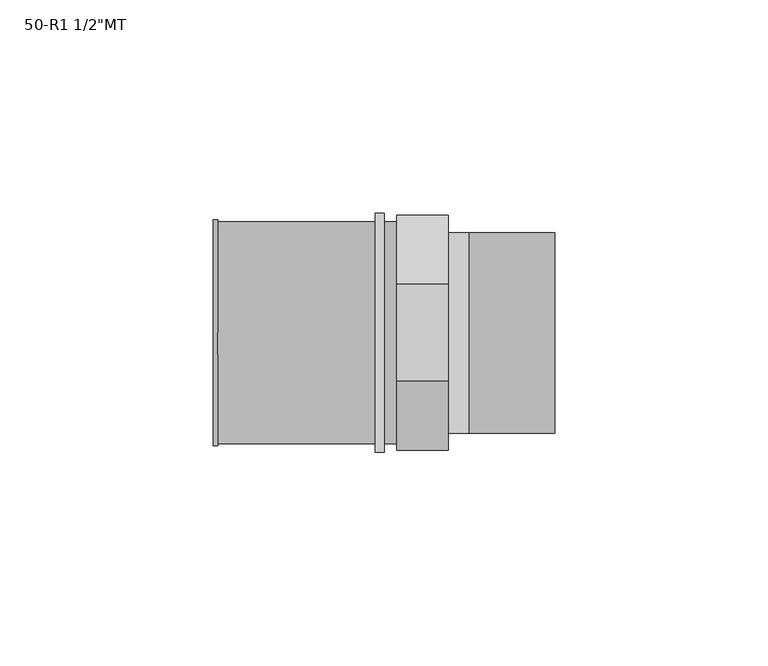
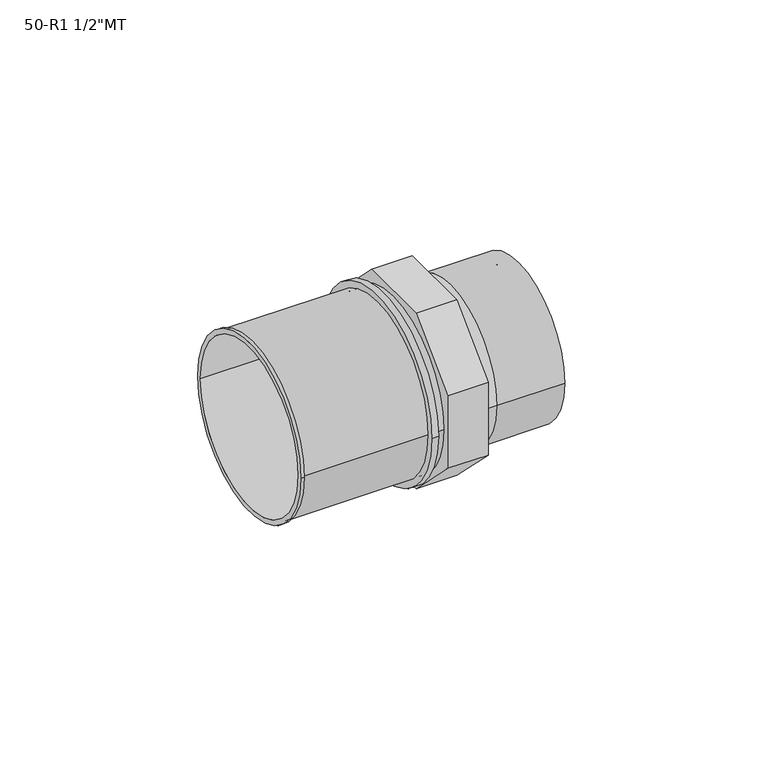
"""IFC4 building model written with IfcOpenShell, lengths in millimetres: pipe fitting geometry."""

from ifc_helpers import new_model, si_unit, point, frame, origin, origin_2d, place, context, project, spatial, polyline, circle_curve, trimmed, segment, composite_curve, outline, extrude, source, transform, mapped, element, save
from ifc_brep_helpers import plane_surface, cylinder_surface, revolved_surface, advanced_brep


def pipe_fitting_e8fe2fe8(model_context):
    return source(origin(), model_context, "Body", "SolidModel", [
        advanced_brep(
        [(-6.0, -27.5, 11.390873), (-6.0, -11.390873, 27.5), (-6.0, 11.390873, 27.5), (-6.0, 27.5, 11.390873), (-6.0, 27.5, -11.390873), (-6.0, 11.390873, -27.5), (-6.0, -11.390873, -27.5), (-6.0, -27.5, -11.390873), (6.0, -27.5, 11.390873), (6.0, -27.5, -11.390873), (6.0, -11.390873, -27.5), (6.0, 11.390873, -27.5), (6.0, 27.5, -11.390873), (6.0, 27.5, 11.390873), (6.0, 11.390873, 27.5), (6.0, -11.390873, 27.5), (6.0, -23.5, 0.0), (6.0, 23.5, 0.0), (31.0, -23.5, 0.0), (31.0, 23.5, 0.0), (31.0, -19.5, 0.0), (31.0, 19.5, 0.0), (12.0, 19.5, 0.0), (12.0, -19.5, 0.0), (12.0, 23.5, 0.0), (11.0, 23.5, 0.0), (11.0, -23.5, 0.0), (12.0, -23.5, 0.0)],
        [
            (0, 1),
            (1, 2),
            (2, 3),
            (3, 4),
            (4, 5),
            (5, 6),
            (6, 7),
            (7, 0),
            (8, 9),
            (9, 10),
            (10, 11),
            (11, 12),
            (12, 13),
            (13, 14),
            (14, 15),
            (15, 8),
            (16, 17, circle_curve(frame((6.0, 0.0, 0.0), z_axis=(-1.0, 0.0, 0.0), x_axis=(0.0, -1.0, 0.0)), 23.5)),
            (17, 16, circle_curve(frame((6.0, 0.0, 0.0), z_axis=(-1.0, 0.0, 0.0), x_axis=(0.0, -1.0, 0.0)), 23.5)),
            (0, 8),
            (15, 1),
            (14, 2),
            (13, 3),
            (12, 4),
            (11, 5),
            (10, 6),
            (9, 7),
            (18, 19, circle_curve(frame((31.0, 0.0, 0.0), z_axis=(1.0, 0.0, 0.0), x_axis=(0.0, 1.0, 0.0)), 23.5)),
            (19, 18, circle_curve(frame((31.0, 0.0, 0.0), z_axis=(1.0, 0.0, 0.0), x_axis=(0.0, 1.0, 0.0)), 23.5)),
            (20, 21, circle_curve(frame((31.0, 0.0, 0.0), z_axis=(-1.0, 0.0, 0.0), x_axis=(0.0, 1.0, 0.0)), 19.5)),
            (21, 20, circle_curve(frame((31.0, 0.0, 0.0), z_axis=(-1.0, 0.0, 0.0), x_axis=(0.0, 1.0, 0.0)), 19.5)),
            (21, 22),
            (22, 23, circle_curve(frame((12.0, 0.0, 0.0), z_axis=(-1.0, 0.0, 0.0), x_axis=(0.0, 1.0, 0.0)), 19.5)),
            (23, 20),
            (23, 22, circle_curve(frame((12.0, 0.0, 0.0), z_axis=(-1.0, 0.0, 0.0), x_axis=(0.0, 1.0, 0.0)), 19.5)),
            (19, 24),
            (24, 25),
            (25, 26, circle_curve(frame((11.0, 0.0, 0.0), z_axis=(1.0, 0.0, 0.0), x_axis=(0.0, 1.0, 0.0)), 23.5)),
            (26, 27),
            (27, 18),
            (26, 25, circle_curve(frame((11.0, 0.0, 0.0), z_axis=(1.0, 0.0, 0.0), x_axis=(0.0, 1.0, 0.0)), 23.5)),
            (16, 26),
            (25, 17),
        ],
        [
            plane_surface(frame((-6.0, 0.0, 0.0), z_axis=(-1.0, 0.0, 0.0), x_axis=(0.0, 0.0, 1.0))),
            plane_surface(frame((6.0, 0.0, 0.0), z_axis=(1.0, 0.0, 0.0), x_axis=(0.0, 0.0, 1.0))),
            plane_surface(frame((-6.0, -27.5, 11.390873), z_axis=(0.0, -0.7071067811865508, 0.7071067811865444), x_axis=(1.0, 0.0, 0.0))),
            plane_surface(frame((-6.0, -11.390873, 27.5), z_axis=(0.0, 0.0, 1.0), x_axis=(1.0, 0.0, 0.0))),
            plane_surface(frame((-6.0, 11.390873, 27.5), z_axis=(0.0, 0.7071067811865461, 0.7071067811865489), x_axis=(1.0, 0.0, 0.0))),
            plane_surface(frame((-6.0, 27.5, 11.390873), z_axis=(0.0, 1.0, 0.0), x_axis=(1.0, 0.0, 0.0))),
            plane_surface(frame((-6.0, 27.5, -11.390873), z_axis=(0.0, 0.7071067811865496, -0.7071067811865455), x_axis=(1.0, 0.0, 0.0))),
            plane_surface(frame((-6.0, 11.390873, -27.5), z_axis=(0.0, 0.0, -1.0), x_axis=(1.0, 0.0, 0.0))),
            plane_surface(frame((-6.0, -11.390873, -27.5), z_axis=(0.0, -0.7071067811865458, -0.7071067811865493), x_axis=(1.0, 0.0, 0.0))),
            plane_surface(frame((-6.0, -27.5, -11.390873), z_axis=(0.0, -1.0, 0.0), x_axis=(1.0, 0.0, 0.0))),
            plane_surface(frame((31.0, 0.0, 0.0), z_axis=(1.0, 0.0, 0.0), x_axis=(0.0, 0.0, 1.0))),
            revolved_surface(polyline([(31.0, 19.5, 0.0), (12.0, 19.5, 0.0)]), (11.0, 0.0, 0.0), (1.0, 0.0, 0.0)),
            cylinder_surface(frame((11.0, 0.0, 0.0), z_axis=(-1.0, 0.0, 0.0), x_axis=(0.0, 1.0, 0.0)), 23.5),
            plane_surface(frame((12.0, 0.0, 0.0), z_axis=(1.0, 0.0, 0.0), x_axis=(0.0, 0.0, 1.0))),
            cylinder_surface(frame((12.0, 0.0, 0.0), z_axis=(1.0, 0.0, 0.0), x_axis=(0.0, -1.0, 0.0)), 23.5),
        ],
        [
            (0, [[1, 2, 3, 4, 5, 6, 7, 8]]),
            (1, [[9, 10, 11, 12, 13, 14, 15, 16], [17, 18]]),
            (2, [[-1, 19, -16, 20]]),
            (3, [[-2, -20, -15, 21]]),
            (4, [[-3, -21, -14, 22]]),
            (5, [[-4, -22, -13, 23]]),
            (6, [[-5, -23, -12, 24]]),
            (7, [[-6, -24, -11, 25]]),
            (8, [[-7, -25, -10, 26]]),
            (9, [[-8, -26, -9, -19]]),
            (10, [[27, 28], [29, 30]]),
            (11, [[-30, 31, 32, 33]]),
            (11, [[-29, -33, 34, -31]]),
            (12, [[-28, 35, 36, 37, 38, 39]]),
            (12, [[-27, -39, -38, 40, -36, -35]]),
            (13, [[-32, -34]]),
            (14, [[41, -37, 42, -17]]),
            (14, [[-41, -18, -42, -40]]),
        ],
    ),
        advanced_brep(
        [(-49.0, -26.5, 0.0), (-49.0, 26.5, 0.0), (-49.0, -25.0, 0.0), (-49.0, 25.0, 0.0), (-11.0, -26.0, 0.0), (-11.0, 26.0, 0.0), (-11.0, -25.0, 0.0), (-11.0, 25.0, 0.0), (-48.0, 26.0, 0.0), (-48.0, -26.0, 0.0), (-48.0, -26.5, 0.0), (-48.0, 26.5, 0.0)],
        [
            (0, 1, circle_curve(frame((-49.0, 0.0, 0.0), z_axis=(-1.0, 0.0, 0.0), x_axis=(0.0, 1.0, 0.0)), 26.5)),
            (1, 0, circle_curve(frame((-49.0, 0.0, 0.0), z_axis=(-1.0, 0.0, 0.0), x_axis=(0.0, 1.0, 0.0)), 26.5)),
            (2, 3, circle_curve(frame((-49.0, 0.0, 0.0), z_axis=(1.0, 0.0, 0.0), x_axis=(0.0, 1.0, 0.0)), 25.0)),
            (3, 2, circle_curve(frame((-49.0, 0.0, 0.0), z_axis=(1.0, 0.0, 0.0), x_axis=(0.0, 1.0, 0.0)), 25.0)),
            (4, 5, circle_curve(frame((-11.0, 0.0, 0.0), z_axis=(1.0, 0.0, 0.0), x_axis=(0.0, 1.0, 0.0)), 26.0)),
            (5, 4, circle_curve(frame((-11.0, 0.0, 0.0), z_axis=(1.0, 0.0, 0.0), x_axis=(0.0, 1.0, 0.0)), 26.0)),
            (6, 7, circle_curve(frame((-11.0, 0.0, 0.0), z_axis=(-1.0, 0.0, 0.0), x_axis=(0.0, 1.0, 0.0)), 25.0)),
            (7, 6, circle_curve(frame((-11.0, 0.0, 0.0), z_axis=(-1.0, 0.0, 0.0), x_axis=(0.0, 1.0, 0.0)), 25.0)),
            (2, 6),
            (7, 3),
            (5, 8),
            (8, 9, circle_curve(frame((-48.0, 0.0, 0.0), z_axis=(1.0, 0.0, 0.0), x_axis=(0.0, 1.0, 0.0)), 26.0)),
            (9, 4),
            (9, 8, circle_curve(frame((-48.0, 0.0, 0.0), z_axis=(1.0, 0.0, 0.0), x_axis=(0.0, 1.0, 0.0)), 26.0)),
            (10, 11, circle_curve(frame((-48.0, 0.0, 0.0), z_axis=(1.0, 0.0, 0.0), x_axis=(0.0, 1.0, 0.0)), 26.5)),
            (11, 10, circle_curve(frame((-48.0, 0.0, 0.0), z_axis=(1.0, 0.0, 0.0), x_axis=(0.0, 1.0, 0.0)), 26.5)),
            (0, 10),
            (11, 1),
        ],
        [
            plane_surface(frame((-49.0, 0.0, 0.0), z_axis=(-1.0, 0.0, 0.0), x_axis=(0.0, 0.0, 1.0))),
            plane_surface(frame((-11.0, 0.0, 0.0), z_axis=(1.0, 0.0, 0.0), x_axis=(0.0, 0.0, 1.0))),
            revolved_surface(polyline([(-11.0, 25.0, 0.0), (-49.0, 25.0, 0.0)]), (-49.0, 0.0, 0.0), (1.0, 0.0, 0.0)),
            cylinder_surface(frame((-49.0, 0.0, 0.0), z_axis=(-1.0, 0.0, 0.0), x_axis=(0.0, 1.0, 0.0)), 26.0),
            plane_surface(frame((-48.0, 0.0, 0.0), z_axis=(1.0, 0.0, 0.0), x_axis=(0.0, 0.0, 1.0))),
            cylinder_surface(frame((-49.0, 0.0, 0.0), z_axis=(-1.0, 0.0, 0.0), x_axis=(0.0, 1.0, 0.0)), 26.5),
        ],
        [
            (0, [[1, 2], [3, 4]]),
            (1, [[5, 6], [7, 8]]),
            (2, [[-3, 9, -8, 10]]),
            (2, [[-4, -10, -7, -9]]),
            (3, [[-6, 11, 12, 13]]),
            (3, [[-5, -13, 14, -11]]),
            (4, [[15, 16], [-12, -14]]),
            (5, [[-1, 17, -16, 18]]),
            (5, [[-2, -18, -15, -17]]),
        ],
    ),
        extrude(outline(composite_curve([segment(trimmed(circle_curve(origin_2d(), 28.0), [point((-28.0, 0.0))], [point((28.0, 0.0))], False, "CARTESIAN"), True, "CONTINUOUS"), segment(trimmed(circle_curve(origin_2d(), 28.0), [point((28.0, 0.0))], [point((-28.0, 0.0))], False, "CARTESIAN"), True, "CONTINUOUS")], self_intersect=False), holes=[composite_curve([segment(trimmed(circle_curve(origin_2d(), 25.0), [point((-25.0, 0.0))], [point((25.0, 0.0))], True, "CARTESIAN"), True, "CONTINUOUS"), segment(trimmed(circle_curve(origin_2d(), 25.0), [point((25.0, 0.0))], [point((-25.0, 0.0))], True, "CARTESIAN"), True, "CONTINUOUS")], self_intersect=False)]), frame((-11.0, 0.0, 0.0), z_axis=(1.0, 0.0, 0.0), x_axis=(0.0, 1.0, 0.0)), (0.0, 0.0, 1.0), 2.0),
        extrude(outline(composite_curve([segment(trimmed(circle_curve(origin_2d(), 26.0), [point((-26.0, 0.0))], [point((26.0, 0.0))], False, "CARTESIAN"), True, "CONTINUOUS"), segment(trimmed(circle_curve(origin_2d(), 26.0), [point((26.0, 0.0))], [point((-26.0, 0.0))], False, "CARTESIAN"), True, "CONTINUOUS")], self_intersect=False)), frame((-9.0, 0.0, 0.0), z_axis=(1.0, 0.0, 0.0), x_axis=(0.0, 1.0, 0.0)), (0.0, 0.0, 1.0), 3.0),
    ])


if __name__ == "__main__":
    model = new_model("IFC4")
    model_context = context("Model", 3, world=origin())
    ifc_project = project(units=[si_unit("LENGTHUNIT", "METRE", prefix="MILLI")], contexts=[model_context])
    site = spatial("IfcSite", under=ifc_project)
    building = spatial("IfcBuilding", under=site)
    placement = place(None, origin())
    pipe_fitting_shape = pipe_fitting_e8fe2fe8(model_context)
    element("IfcPipeFitting", 1, ObjectType="SuperPipe_AdapterMT : 50-R1 1/2\"MT", at=placement, inside=building, context=model_context, shape_type="MappedRepresentation", body=[
        mapped(pipe_fitting_shape, transform((0.0, 0.0, 0.0), x_axis=(1.0, 0.0, 0.0), y_axis=(0.0, 1.0, 0.0), z_axis=(0.0, 0.0, 1.0))),
    ])
    save(model, "model.ifc")
